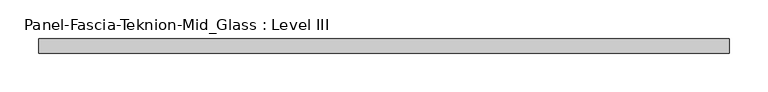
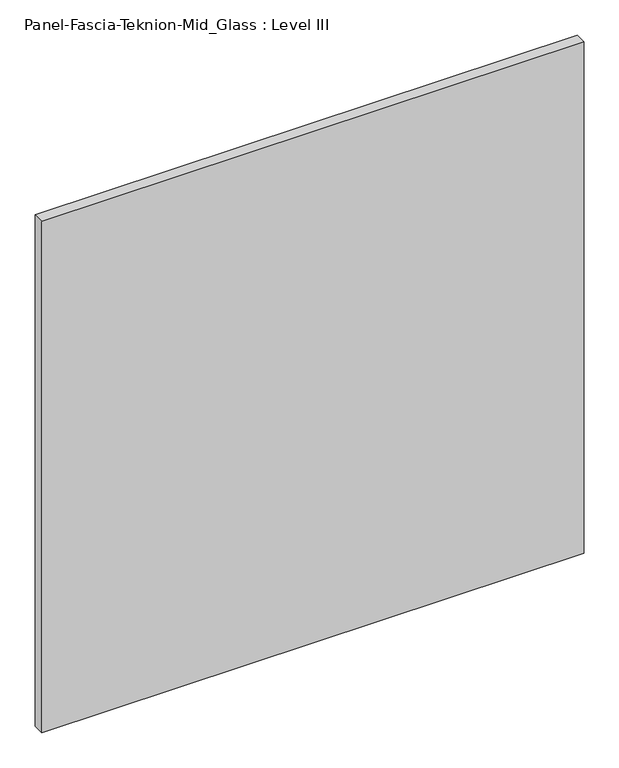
"""IFC4 building model written with IfcOpenShell, lengths in millimetres: proxy geometry, Panel-Fascia-Teknion-Mid_Glass : Level III."""

from ifc_helpers import new_model, si_unit, frame, origin, place, context, project, spatial, polyline, outline, extrude, source, transform, mapped, element, save


def panel_fascia_teknion_mid_glass_level_iii_33d6d773(model_context):
    return source(origin(), model_context, "Body", "SweptSolid", [
        extrude(outline(polyline([(447.6253906, -9.525), (-447.6253906, -9.525), (-447.6253906, 9.525), (447.6253906, 9.525), (447.6253906, -9.525)])), frame((0.0, 0.0, 3.175), z_axis=(0.0, 0.0, 1.0), x_axis=(1.0, 0.0, 0.0)), (0.0, 0.0, 1.0), 892.175),
    ])


if __name__ == "__main__":
    model = new_model("IFC4")
    model_context = context("Model", 3, world=origin())
    ifc_project = project(units=[si_unit("LENGTHUNIT", "METRE", prefix="MILLI")], contexts=[model_context])
    site = spatial("IfcSite", under=ifc_project)
    building = spatial("IfcBuilding", under=site)
    placement = place(None, origin())
    panel_fascia_teknion_mid_glass_level_iii_shape = panel_fascia_teknion_mid_glass_level_iii_33d6d773(model_context)
    element("IfcBuildingElementProxy", 1, Name="Panel-Fascia-Teknion-Mid_Glass : Level III", ObjectType="Panel-Fascia-Teknion-Mid_Glass : Level III", at=placement, inside=building, context=model_context, shape_type="MappedRepresentation", body=[
        mapped(panel_fascia_teknion_mid_glass_level_iii_shape, transform((0.0, 0.0, 0.0), x_axis=(1.0, 0.0, 0.0), y_axis=(0.0, 1.0, 0.0), z_axis=(0.0, 0.0, 1.0))),
    ])
    save(model, "model.ifc")
